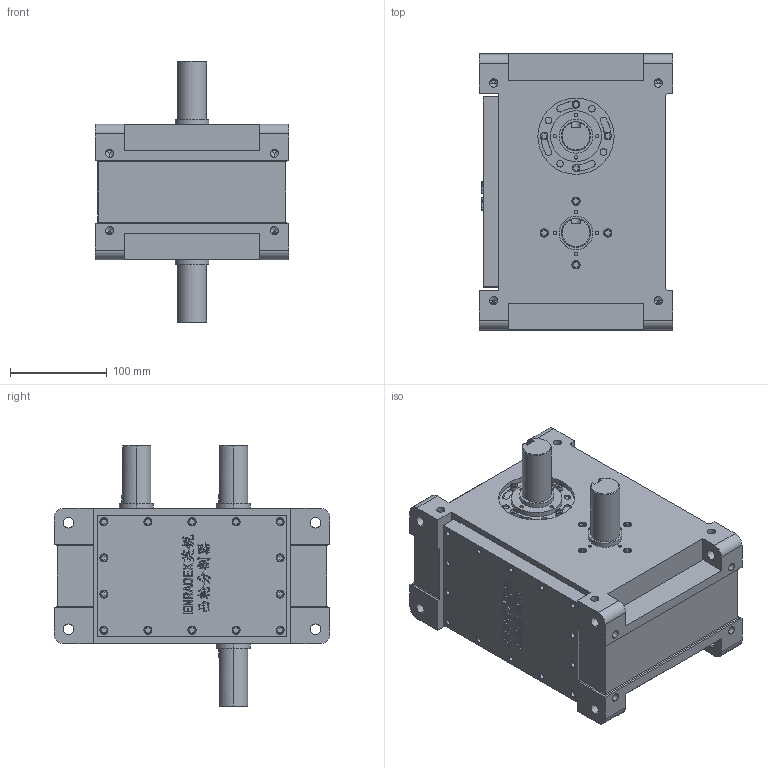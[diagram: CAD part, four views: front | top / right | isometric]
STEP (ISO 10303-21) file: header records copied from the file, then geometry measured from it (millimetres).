
FILE_DESCRIPTION (( 'STEP AP214' ), '1' );
FILE_NAME ('ER-PU100DS英锐凸轮分割器3D标准图纸(电话15062628977)A.STEP', '2022-11-02T01:49:20', ( '微软用户' ), ( '微软中国' ), 'SwSTEP 2.0', 'SolidWorks 2017', '' );
FILE_SCHEMA (( 'AUTOMOTIVE_DESIGN' ));
Length unit declared in the file: millimetre
Products named in the file (1): ER-PU100DS英锐凸轮分割器3D标准图纸(电话15062628977)A
Bounding box: 200 x 285 x 270 mm (x, y, z)
Volume: 7108803.3 mm3; surface area: 314627.9 mm2
Topology: 1 solids, 1 shells, 1064 faces, 2586 edges, 1686 vertices
Faces by surface type: plane 506, cylinder 300, bspline 209, cone 49
Entity records: 52258 total; most frequent: CARTESIAN_POINT 22458, ORIENTED_EDGE 5172, DIRECTION 4590, EDGE_CURVE 2586, VERTEX_POINT 1686, AXIS2_PLACEMENT_3D 1568, VECTOR 1454, LINE 1454
